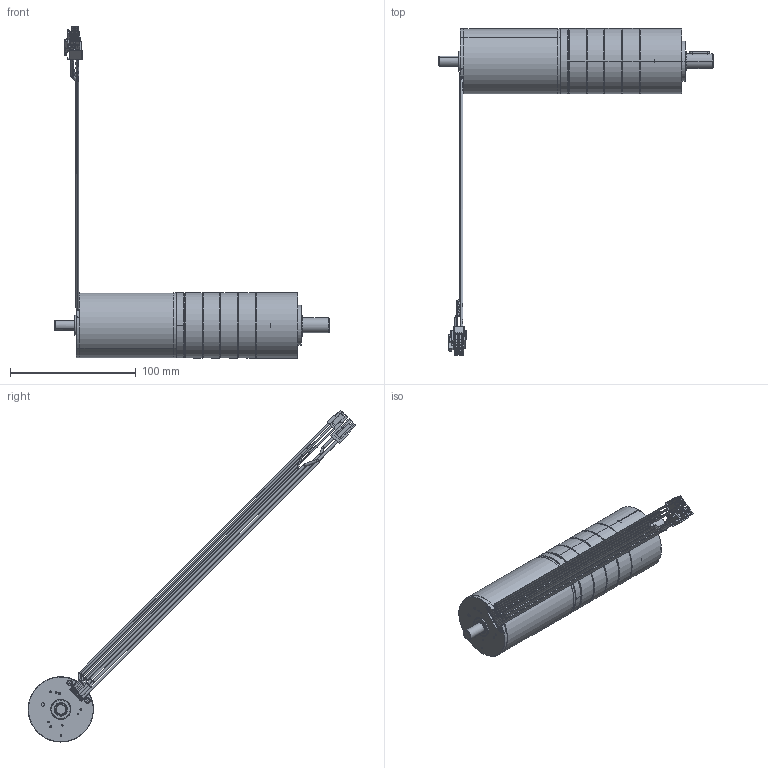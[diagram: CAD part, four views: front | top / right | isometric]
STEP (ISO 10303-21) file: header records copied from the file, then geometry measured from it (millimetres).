
FILE_DESCRIPTION (( 'STEP AP214' ), '1' );
FILE_NAME ('ECI52_+_PM52 - 4etages.STEP', '2016-12-15T15:23:32', ( '' ), ( '' ), 'SwSTEP 2.0', 'SolidWorks 2015', '' );
FILE_SCHEMA (( 'AUTOMOTIVE_DESIGN' ));
Length unit declared in the file: millimetre
Products named in the file (15): ECI52_+_PM52 - 4etages; eci52; GK2152_POS3_6_ANLAUFSCHEIBE_1ST_3; MOTORFLANSCH_1248336; SCHRAUBE_1241978_7; 8006230_ZAHNKRANZ_Z46_3; 8006405_DICHTRING_3; 4X4X16_D6885A_3; D471_12X1_5_3; 8102168_ABTRIEB_LK1_KPL_3; GK2152_POS31_2_LAGERBOLZEN_3; 8101171_ABTRIEB_ROHTEIL_AF0_3; DIN998_PS_12X18X1_3; D625-6001-2RS_3; 8006231_LAGERFLANSCH_3
Assembly tree (28 placements, depth 3):
  ECI52_+_PM52 - 4etages
    8006231_LAGERFLANSCH_3
    D625-6001-2RS_3  x2
    DIN998_PS_12X18X1_3  x2
    8102168_ABTRIEB_LK1_KPL_3
      8101171_ABTRIEB_ROHTEIL_AF0_3
      GK2152_POS31_2_LAGERBOLZEN_3  x3
    D471_12X1_5_3
    4X4X16_D6885A_3
    8006405_DICHTRING_3  x5
    8006230_ZAHNKRANZ_Z46_3  x4
    SCHRAUBE_1241978_7  x4
    MOTORFLANSCH_1248336
    GK2152_POS3_6_ANLAUFSCHEIBE_1ST_3
    eci52
Bounding box: 218.35 x 261.02 x 264.54 mm (x, y, z)
Volume: 247042.3 mm3; surface area: 123737.2 mm2
Topology: 24 solids, 46 shells, 2129 faces, 5701 edges, 3674 vertices
Faces by surface type: plane 932, cylinder 891, cone 169, bspline 137
Entity records: 74783 total; most frequent: CARTESIAN_POINT 29862, ORIENTED_EDGE 6760, DIRECTION 6725, EDGE_CURVE 3400, AXIS2_PLACEMENT_3D 2371, VERTEX_POINT 2176, LINE 1983, VECTOR 1983
